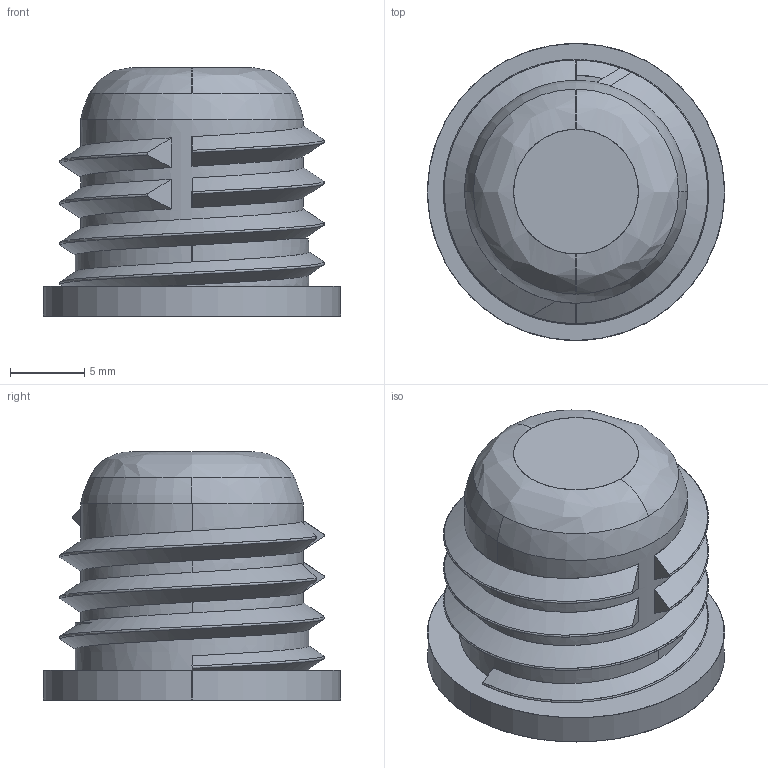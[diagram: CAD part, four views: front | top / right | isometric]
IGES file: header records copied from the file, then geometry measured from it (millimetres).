
Start section: SolidWorks IGES file using analytic representation for surfaces
Global section: file name: D:\Blender\Clients\FAS - Fastmount\FAS000 - General\Customer files\Clip Geometry\PC - Standard Range\IGES\PC-F1A.IGS; native system: SolidWorks 2018; preprocessor: SolidWorks 2018; author: Evan; date: 190204.093931; units: millimetre
Bounding box: 20 x 20 x 16.7 mm (x, y, z)
Surface area: 2232 mm2 (no closed solid volume)
Topology: 0 solids, 0 shells, 250 faces, 2371 edges, 2359 vertices
Faces by surface type: bspline 226, revolution 24
